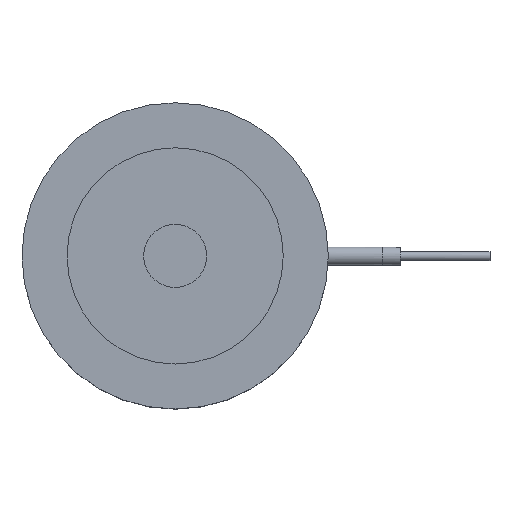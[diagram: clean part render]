
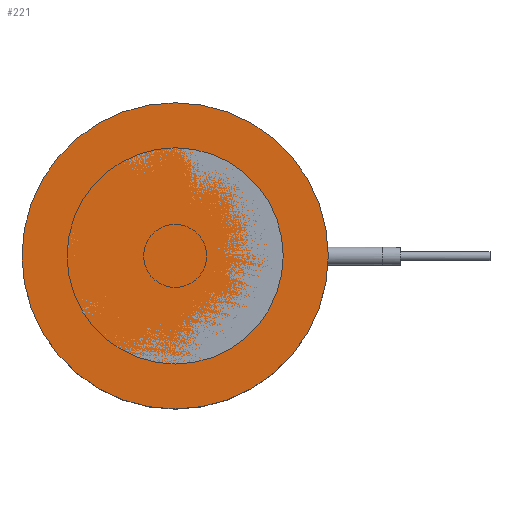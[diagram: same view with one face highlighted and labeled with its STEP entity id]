
A CAD part, top view. The second image highlights one B-rep face of the part: STEP entity #221.
In plain terms, the highlighted planar face has unit normal (0, 0, 1).
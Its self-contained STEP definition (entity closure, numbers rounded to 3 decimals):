
#221=ADVANCED_FACE('',(#318),#288,.F.);
#288=PLANE('',#1050);
#318=FACE_OUTER_BOUND('',#434,.T.);
#434=EDGE_LOOP('',(#544));
#544=ORIENTED_EDGE('',*,*,#861,.F.);
#772=VERTEX_POINT('',#1499);
#861=EDGE_CURVE('',#772,#772,#976,.T.);
#976=CIRCLE('',#1049,17.);
#1049=AXIS2_PLACEMENT_3D('',#1498,#1197,#1198);
#1050=AXIS2_PLACEMENT_3D('',#1500,#1199,#1200);
#1197=DIRECTION('',(0.,0.,-1.));
#1198=DIRECTION('',(-1.,0.,0.));
#1199=DIRECTION('',(0.,0.,-1.));
#1200=DIRECTION('',(-1.,0.,0.));
#1498=CARTESIAN_POINT('',(0.,0.,0.));
#1499=CARTESIAN_POINT('',(-17.,0.,0.));
#1500=CARTESIAN_POINT('',(0.,0.,0.));
